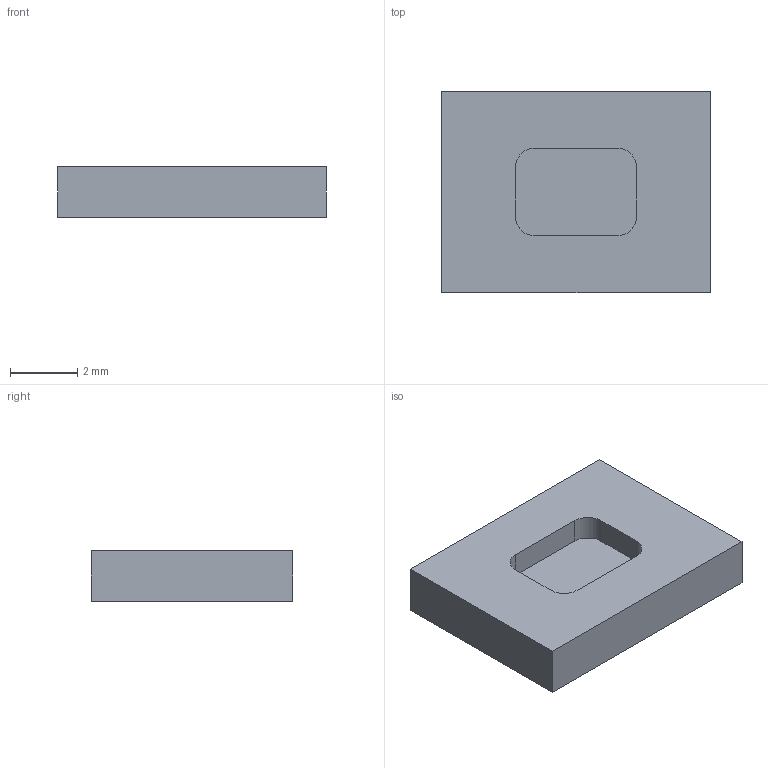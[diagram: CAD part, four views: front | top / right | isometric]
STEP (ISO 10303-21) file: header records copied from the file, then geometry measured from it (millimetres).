
FILE_DESCRIPTION(('FreeCAD Model'),'2;1');
FILE_NAME('Open CASCADE Shape Model','2026-11-02T20:21:27',('FreeCAD'),( 'FreeCAD'),'Open CASCADE STEP processor 7.8','FreeCAD','Unknown');
FILE_SCHEMA(('AUTOMOTIVE_DESIGN { 1 0 10303 214 1 1 1 1 }'));
Length unit declared in the file: millimetre
Products named in the file (1): Open CASCADE STEP translator 7.8 2
Bounding box: 8 x 6 x 1.5 mm (x, y, z)
Volume: 65.2 mm3; surface area: 146.6 mm2
Topology: 1 solids, 1 shells, 15 faces, 36 edges, 24 vertices
Faces by surface type: plane 11, cylinder 4
Entity records: 448 total; most frequent: CARTESIAN_POINT 76, DIRECTION 76, ORIENTED_EDGE 72, EDGE_CURVE 36, LINE 28, VECTOR 28, AXIS2_PLACEMENT_3D 24, VERTEX_POINT 24
